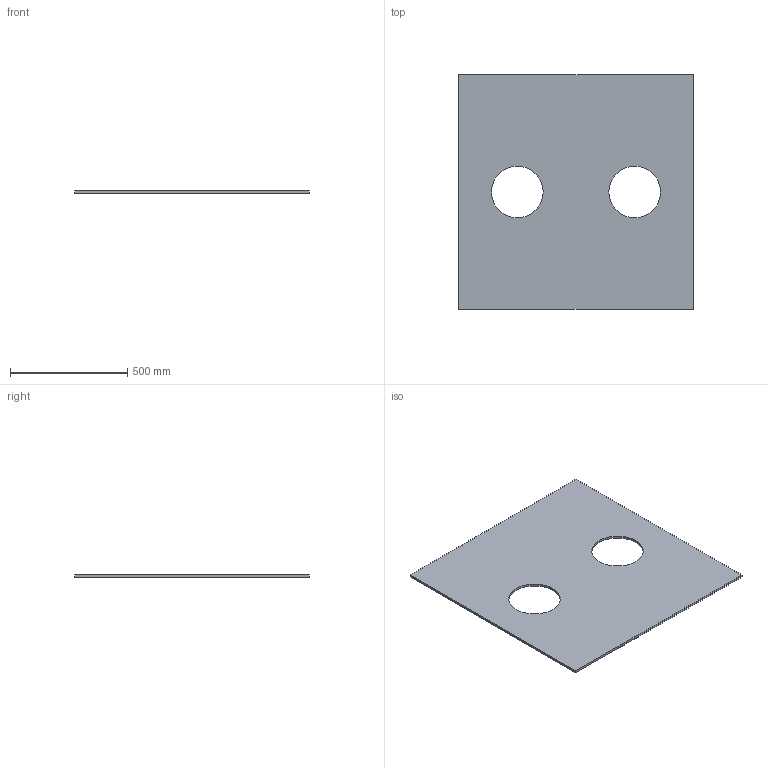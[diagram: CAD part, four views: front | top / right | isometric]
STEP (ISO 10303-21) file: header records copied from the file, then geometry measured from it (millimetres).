
FILE_DESCRIPTION (( 'STEP AP214' ), '1' );
FILE_NAME ('Ej10-v01.STEP', '2012-02-02T09:20:51', ( '' ), ( '' ), 'SwSTEP 2.0', 'SolidWorks 2011', '' );
FILE_SCHEMA (( 'AUTOMOTIVE_DESIGN' ));
Length unit declared in the file: millimetre
Products named in the file (1): Ej10-v01
Bounding box: 1000 x 1000 x 10 mm (x, y, z)
Volume: 9239734.6 mm3; surface area: 1901769.9 mm2
Topology: 1 solids, 1 shells, 10 faces, 24 edges, 16 vertices
Faces by surface type: plane 6, cylinder 4
Entity records: 338 total; most frequent: DIRECTION 54, CARTESIAN_POINT 51, ORIENTED_EDGE 48, EDGE_CURVE 24, AXIS2_PLACEMENT_3D 19, LINE 16, VECTOR 16, VERTEX_POINT 16
